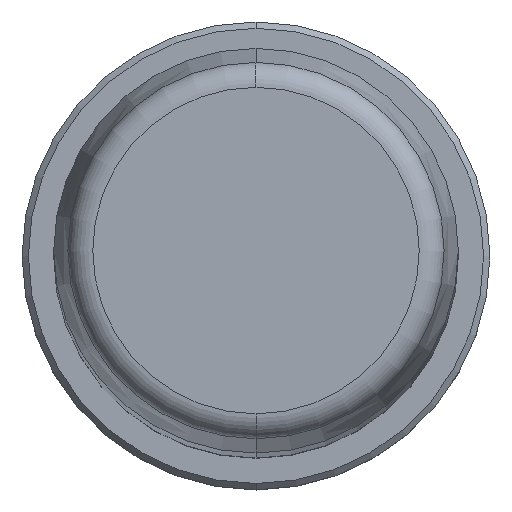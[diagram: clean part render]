
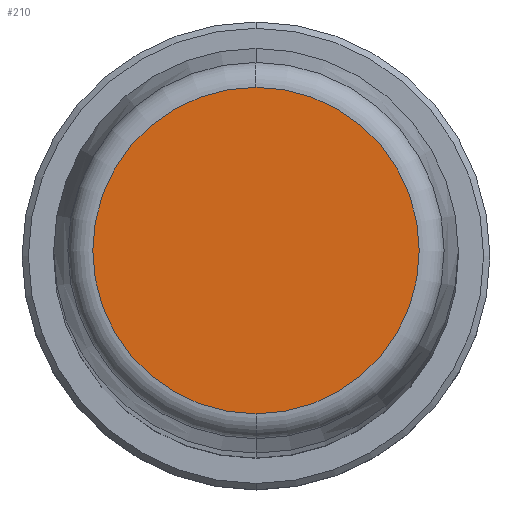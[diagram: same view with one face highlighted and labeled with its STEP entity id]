
A CAD part, top view. The second image highlights one B-rep face of the part: STEP entity #210.
In plain terms, the highlighted planar face has unit normal (0, 0, 1).
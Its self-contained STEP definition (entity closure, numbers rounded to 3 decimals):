
#1=CARTESIAN_POINT('',(0.,0.,250.));
#2=DIRECTION('',(0.,0.,-1.));
#3=DIRECTION('',(0.,-1.,0.));
#4=AXIS2_PLACEMENT_3D('',#1,#2,#3);
#6=CARTESIAN_POINT('',(0.,0.,250.));
#7=DIRECTION('',(0.,0.,-1.));
#8=DIRECTION('',(0.,1.,0.));
#9=AXIS2_PLACEMENT_3D('',#6,#7,#8);
#183=CARTESIAN_POINT('',(0.,-12.911,250.));
#184=CARTESIAN_POINT('',(0.,12.911,250.));
#185=VERTEX_POINT('',#183);
#186=VERTEX_POINT('',#184);
#199=CARTESIAN_POINT('',(0.,0.,250.));
#200=DIRECTION('',(0.,0.,1.));
#201=DIRECTION('',(0.,-1.,0.));
#202=AXIS2_PLACEMENT_3D('',#199,#200,#201);
#203=PLANE('',#202);
#205=ORIENTED_EDGE('',*,*,#204,.T.);
#207=ORIENTED_EDGE('',*,*,#206,.T.);
#208=EDGE_LOOP('',(#205,#207));
#209=FACE_OUTER_BOUND('',#208,.F.);
#210=ADVANCED_FACE('',(#209),#203,.T.);
#5=CIRCLE('',#4,12.911);
#10=CIRCLE('',#9,12.911);
#204=EDGE_CURVE('',#185,#186,#5,.T.);
#206=EDGE_CURVE('',#186,#185,#10,.T.);
